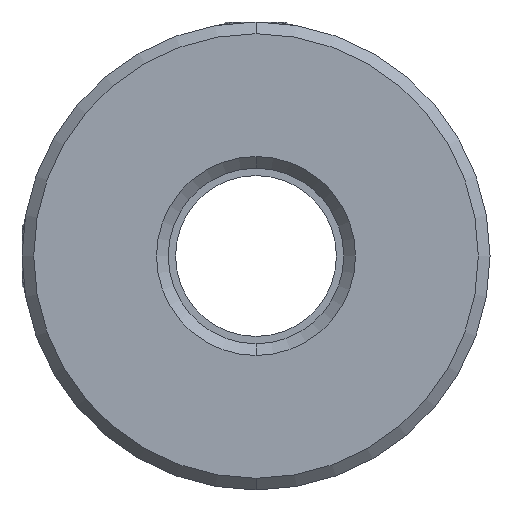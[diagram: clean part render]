
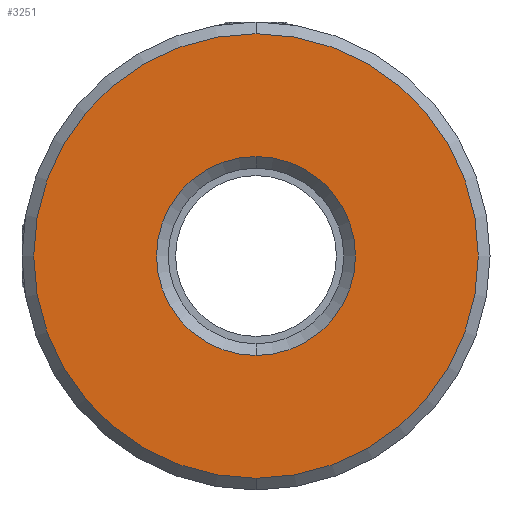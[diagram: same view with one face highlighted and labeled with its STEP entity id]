
A CAD part, front view. The second image highlights one B-rep face of the part: STEP entity #3251.
In plain terms, the highlighted planar face has unit normal (0, -1, 0).
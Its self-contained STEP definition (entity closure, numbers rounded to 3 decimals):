
#12 = CIRCLE ( 'NONE', #2771, 15.2 ) ;
#186 = AXIS2_PLACEMENT_3D ( 'NONE', #1893, #3439, #849 ) ;
#222 = FACE_OUTER_BOUND ( 'NONE', #1140, .T. ) ;
#230 = CIRCLE ( 'NONE', #3090, 6.8 ) ;
#286 = CARTESIAN_POINT ( 'NONE',  ( -10.188, -0.277, 0.046 ) ) ;
#434 = VERTEX_POINT ( 'NONE', #856 ) ;
#479 = CARTESIAN_POINT ( 'NONE',  ( -10.188, -0.277, 0.046 ) ) ;
#513 = FACE_BOUND ( 'NONE', #2670, .T. ) ;
#526 = DIRECTION ( 'NONE',  ( 0., 0., 1. ) ) ;
#660 = CARTESIAN_POINT ( 'NONE',  ( -10.188, -0.277, 0.046 ) ) ;
#849 = DIRECTION ( 'NONE',  ( 0., 0., 1. ) ) ;
#856 = CARTESIAN_POINT ( 'NONE',  ( -10.188, -0.277, 15.246 ) ) ;
#871 = EDGE_CURVE ( 'NONE', #434, #2429, #2888, .T. ) ;
#1096 = DIRECTION ( 'NONE',  ( 0., 0., 1. ) ) ;
#1140 = EDGE_LOOP ( 'NONE', ( #1170, #1715 ) ) ;
#1157 = ORIENTED_EDGE ( 'NONE', *, *, #1816, .T. ) ;
#1170 = ORIENTED_EDGE ( 'NONE', *, *, #871, .T. ) ;
#1279 = VERTEX_POINT ( 'NONE', #1742 ) ;
#1674 = DIRECTION ( 'NONE',  ( 0., 0., 1. ) ) ;
#1715 = ORIENTED_EDGE ( 'NONE', *, *, #2798, .T. ) ;
#1742 = CARTESIAN_POINT ( 'NONE',  ( -10.188, -0.277, 6.846 ) ) ;
#1816 = EDGE_CURVE ( 'NONE', #2132, #1279, #230, .T. ) ;
#1840 = CARTESIAN_POINT ( 'NONE',  ( -10.188, -0.277, -15.154 ) ) ;
#1893 = CARTESIAN_POINT ( 'NONE',  ( -10.188, -0.277, 0.046 ) ) ;
#1991 = DIRECTION ( 'NONE',  ( 0., 1., 0. ) ) ;
#2051 = CIRCLE ( 'NONE', #3405, 6.8 ) ;
#2112 = DIRECTION ( 'NONE',  ( 0., 0., 1. ) ) ;
#2132 = VERTEX_POINT ( 'NONE', #3693 ) ;
#2429 = VERTEX_POINT ( 'NONE', #1840 ) ;
#2536 = CARTESIAN_POINT ( 'NONE',  ( -10.188, -0.277, 0.046 ) ) ;
#2551 = PLANE ( 'NONE',  #186 ) ;
#2634 = DIRECTION ( 'NONE',  ( 0., -1., 0. ) ) ;
#2670 = EDGE_LOOP ( 'NONE', ( #1157, #3740 ) ) ;
#2771 = AXIS2_PLACEMENT_3D ( 'NONE', #660, #3549, #2112 ) ;
#2798 = EDGE_CURVE ( 'NONE', #2429, #434, #12, .T. ) ;
#2888 = CIRCLE ( 'NONE', #2933, 15.2 ) ;
#2933 = AXIS2_PLACEMENT_3D ( 'NONE', #286, #2634, #526 ) ;
#2944 = EDGE_CURVE ( 'NONE', #1279, #2132, #2051, .T. ) ;
#3090 = AXIS2_PLACEMENT_3D ( 'NONE', #2536, #1991, #1096 ) ;
#3251 = ADVANCED_FACE ( 'NONE', ( #222, #513 ), #2551, .F. ) ;
#3386 = DIRECTION ( 'NONE',  ( 0., 1., 0. ) ) ;
#3405 = AXIS2_PLACEMENT_3D ( 'NONE', #479, #3386, #1674 ) ;
#3439 = DIRECTION ( 'NONE',  ( 0., 1., 0. ) ) ;
#3549 = DIRECTION ( 'NONE',  ( 0., -1., 0. ) ) ;
#3693 = CARTESIAN_POINT ( 'NONE',  ( -10.188, -0.277, -6.754 ) ) ;
#3740 = ORIENTED_EDGE ( 'NONE', *, *, #2944, .T. ) ;
